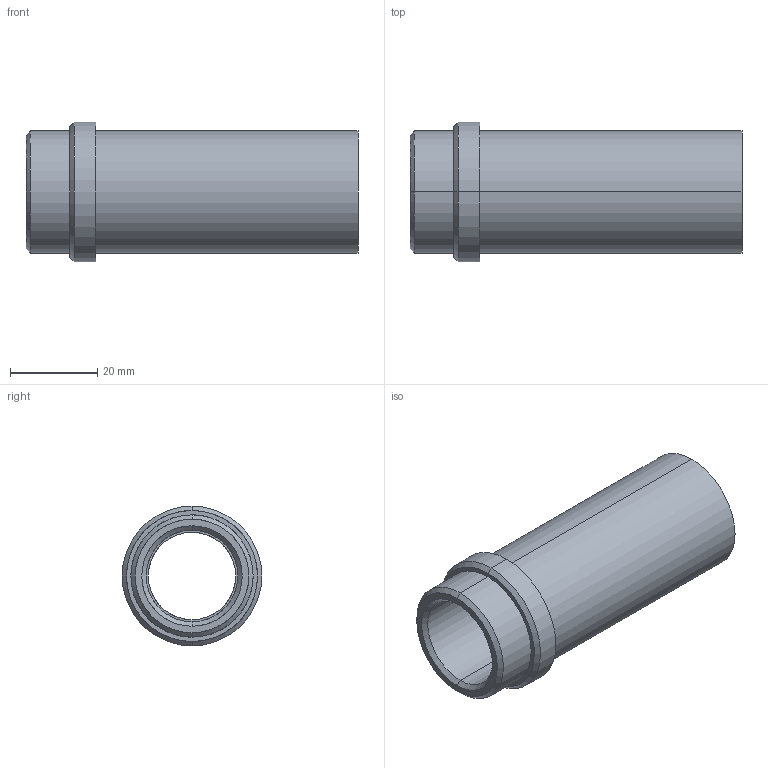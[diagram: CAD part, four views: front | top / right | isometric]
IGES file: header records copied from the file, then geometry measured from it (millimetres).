
Start section: START RECORD GO HERE.
Global section: file name: 358-20x76.igs; native system: DASSAULT SYSTEMES CATIA V5 R20 - www.3ds.com; preprocessor: CATIA Version 5 Release 20 ; author: Utente; organization: NB04-ASUS; date: 20210408.144429; units: millimetre
Bounding box: 76 x 32 x 32 mm (x, y, z)
Surface area: 12426.7 mm2 (no closed solid volume)
Topology: 0 solids, 0 shells, 23 faces, 148 edges, 148 vertices
Faces by surface type: revolution 18, plane 5
